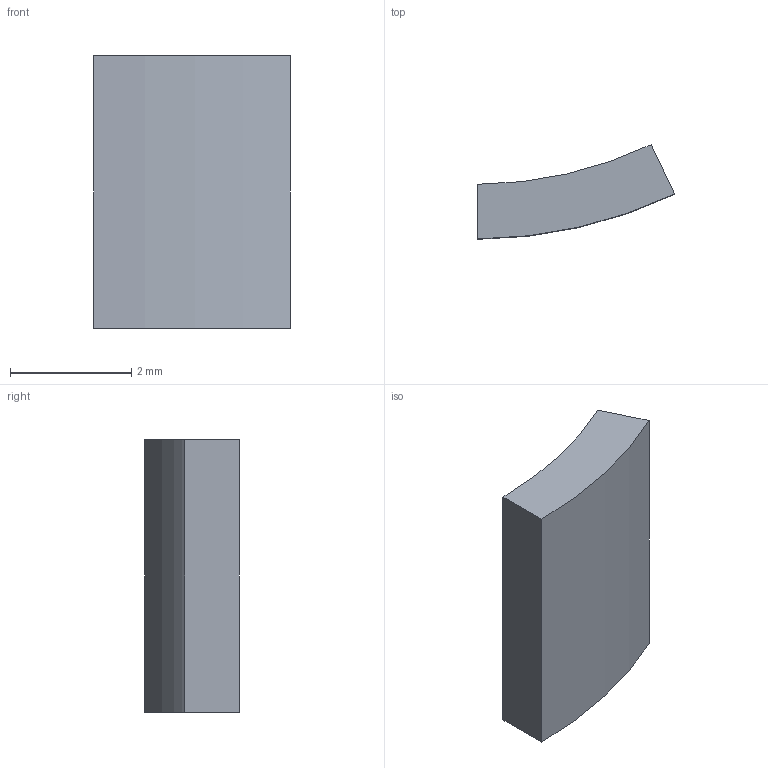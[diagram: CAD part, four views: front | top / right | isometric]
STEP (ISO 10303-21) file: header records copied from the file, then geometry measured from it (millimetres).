
FILE_DESCRIPTION(('Open CASCADE Model'),'2;1');
FILE_NAME('Open CASCADE Shape Model','2026-10-24T17:46:06',('Author'),( 'Open CASCADE'),'Open CASCADE STEP processor 8.0','Open CASCADE 8.0' ,'Unknown');
FILE_SCHEMA(('AUTOMOTIVE_DESIGN { 1 0 10303 214 1 1 1 1 }'));
Length unit declared in the file: millimetre
Products named in the file (1): Open CASCADE STEP translator 8.0 16
Bounding box: 3.25 x 1.55 x 4.5 mm (x, y, z)
Volume: 12.8 mm3; surface area: 42.2 mm2
Topology: 1 solids, 1 shells, 6 faces, 12 edges, 8 vertices
Faces by surface type: plane 4, cylinder 2
Entity records: 310 total; most frequent: CARTESIAN_POINT 67, DIRECTION 38, ORIENTED_EDGE 24, PCURVE 24, DEFINITIONAL_REPRESENTATION 24, B_SPLINE_CURVE_WITH_KNOTS 16, EDGE_CURVE 12, SURFACE_CURVE 12
